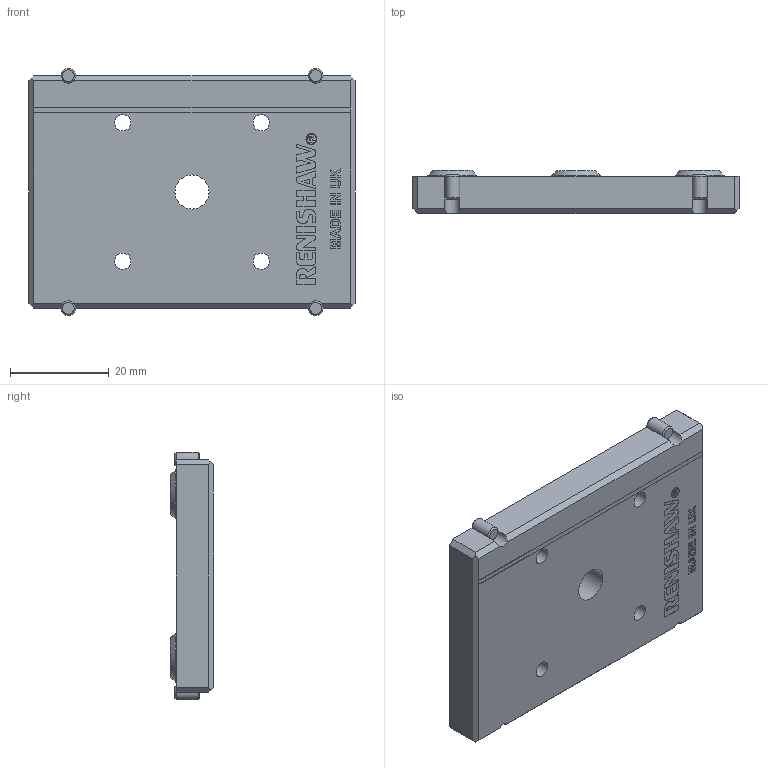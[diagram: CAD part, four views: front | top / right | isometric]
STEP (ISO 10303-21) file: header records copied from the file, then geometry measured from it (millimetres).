
FILE_DESCRIPTION(/* description */ (''),/* implementation_level */ '2;1');
FILE_NAME(/* name */ 'LA-8003-0258-A.stp',/* time_stamp */ '2015-03-31T11:46:59+01:00',/* author */ (''),/* organization */ (''),/* preprocessor_version */ 'ST-DEVELOPER v11',/* originating_system */ 'SIEMENS PLM Software NX 7.5',/* authorisation */ '');
FILE_SCHEMA (('AP203_CONFIGURATION_CONTROLLED_3D_DESIGN_OF_MECHANICAL_PARTS_AND_ASSEMBLIES_MIM_LF'));
Length unit declared in the file: millimetre
Products named in the file (1): da13E7542jxe
Bounding box: 66 x 8.7 x 50 mm (x, y, z)
Volume: 21286.9 mm3; surface area: 10088.4 mm2
Topology: 1 solids, 1 shells, 344 faces, 901 edges, 593 vertices
Faces by surface type: plane 230, extrusion 71, cylinder 29, cone 14
Full cylindrical faces by diameter (mm): 2.2 x1, 3.3 x4, 6 x4, 6.9 x1, 9.93 x3, 10.05 x3
Entity records: 10872 total; most frequent: CARTESIAN_POINT 2305, ORIENTED_EDGE 1728, DIRECTION 1425, EDGE_CURVE 864, VECTOR 709, LINE 638, VERTEX_POINT 586, EDGE_LOOP 418
